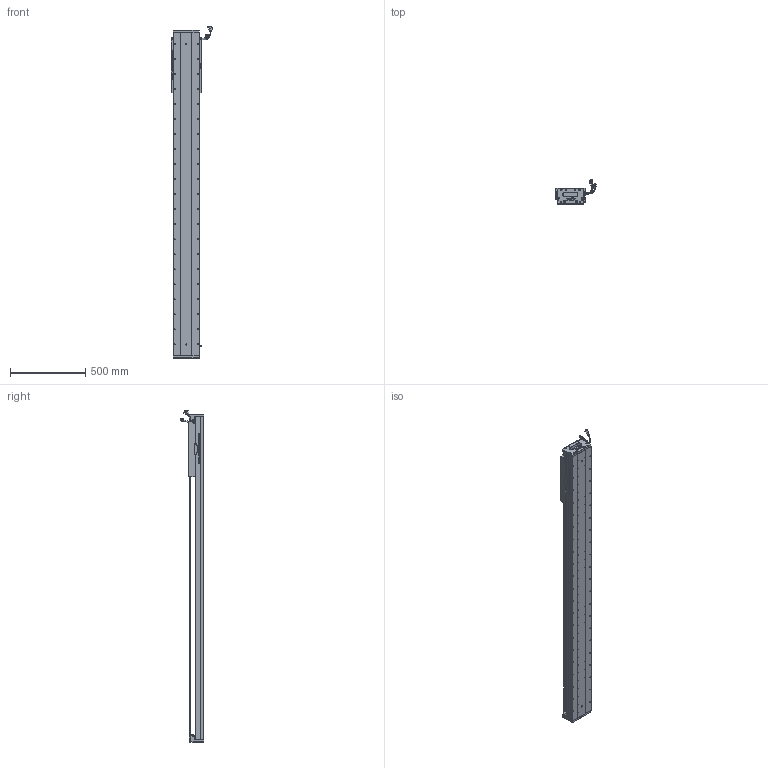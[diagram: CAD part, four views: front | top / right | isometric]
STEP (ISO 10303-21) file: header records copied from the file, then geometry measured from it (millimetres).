
FILE_DESCRIPTION (( 'STEP AP203' ), '1' );
FILE_NAME ('Z5-RY170D-1-L500-B-K.SLDASM_1700.step', '2021-05-18T00:41:31', ( '盈信电脑' ), ( '东莞市道滘镇水果街19号' ), 'SwSTEP 2.0', 'SolidWorks 2016', '' );
FILE_SCHEMA (( 'CONFIG_CONTROL_DESIGN' ));
Length unit declared in the file: millimetre
Products named in the file (36): LABEL; SHIELDPLATE; 榋妏寠巭燃_暯_M2_2; Z5-RY170臏賑輸(21遴); PSLH080_PSLF2; SCALE; Z-RY170詩湍狟揤裔; SCREW-M1.7; Z5-RY170-L500耀郪菁釱_1700; COVER-Part-1; HARNESS; SCREW-M1.6-3; SEAL-Part-1; SEAL; 覜茼ん672; SCREW-M1.6-2; COVER; PBU_SHEET; SCREW-M1.6; 140雄赽晤鎢ん堤盄; 080黍杅芛假蚾釱21遴; SCALE-Part-2; Z5-RY170D-1-L500-B-K.SLDASM_1700; HOLDER0; HARNESS-Part-1; Z5-RY170-L500詩湍145mm遵_1700; RY170直线电机感应器672光电感应片; Z-RY170詩湍奻揤裔; SCALE-Part-1; 140蚥薯蝶輸; LABEL-Part-1; 170-Z-臏賑輸盄裔(21遴); Z-170詩湍傷裔啣; SCREW-M1.6-1; HARNESS-Part-2; SCREW-M1.7-1
Assembly tree (41 placements, depth 4):
  Z5-RY170D-1-L500-B-K.SLDASM_1700
    Z5-RY170-L500耀郪菁釱_1700
    RY170直线电机感应器672光电感应片
    Z5-RY170臏賑輸(21遴)
    覜茼ん672  x3
    PSLH080_PSLF2
      SCALE
        SCALE-Part-1
        SCALE-Part-2
      HARNESS
        HARNESS-Part-1
        HARNESS-Part-2
      LABEL
        LABEL-Part-1
      COVER
        COVER-Part-1
      SEAL
        SEAL-Part-1
      榋妏寠巭燃_暯_M2_2
      SHIELDPLATE
      SCREW-M1.7
      SCREW-M1.7-1
      PBU_SHEET
      SCREW-M1.6
      SCREW-M1.6-1
      SCREW-M1.6-2
      SCREW-M1.6-3
      HOLDER0
    080黍杅芛假蚾釱21遴
    Z5-RY170-L500詩湍145mm遵_1700
    Z-170詩湍傷裔啣  x2
    Z-RY170詩湍奻揤裔  x2
    Z-RY170詩湍狟揤裔  x2
    140蚥薯蝶輸  x2
    170-Z-臏賑輸盄裔(21遴)
    140雄赽晤鎢ん堤盄
Bounding box: 275.34 x 158.11 x 2208.72 mm (x, y, z)
Volume: 11834769.2 mm3; surface area: 2837910 mm2
Topology: 36 solids, 36 shells, 3868 faces, 10617 edges, 6643 vertices
Faces by surface type: cylinder 1920, plane 1290, cone 536, torus 69, bspline 53
Entity records: 119801 total; most frequent: CARTESIAN_POINT 32522, ORIENTED_EDGE 17782, DIRECTION 16895, EDGE_CURVE 8891, AXIS2_PLACEMENT_3D 6246, VERTEX_POINT 5761, VECTOR 4403, LINE 4403
